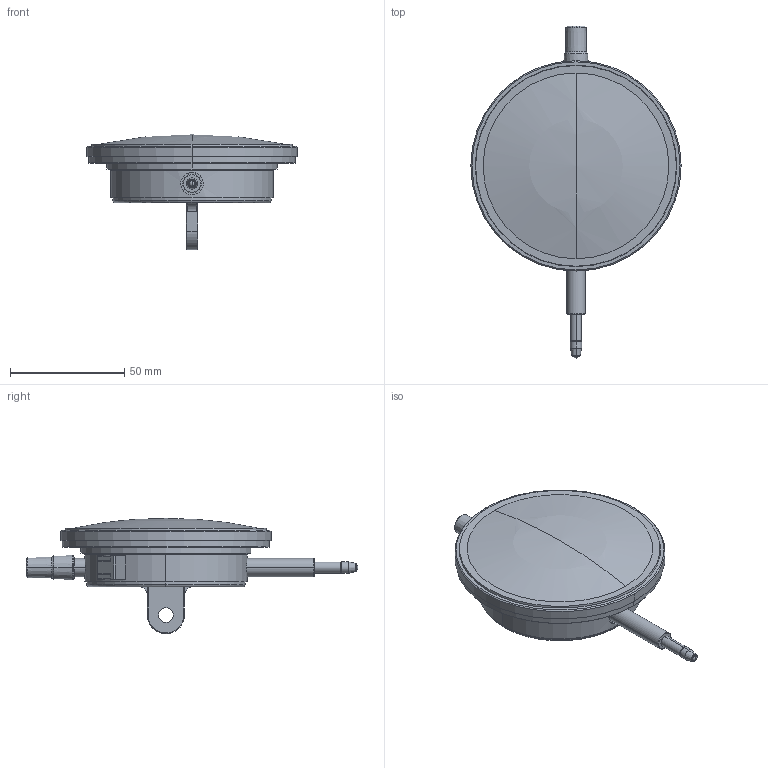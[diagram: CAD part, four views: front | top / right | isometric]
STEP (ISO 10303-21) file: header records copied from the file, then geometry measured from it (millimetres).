
FILE_DESCRIPTION(('Creo Elements/Direct Modeling STEP Export'),'2;1');
FILE_NAME('4046S.stp','2020-03-23T11:12:22',(''),(''),'Creo Elements/Direct Modeling STEP processor for AP214 (Solid Model)','Creo Elements/Direct Modeling 18.1I 13-Aug-2016 (C) Parametric Technology GmbH','');
FILE_SCHEMA(('AUTOMOTIVE_DESIGN { 1 0 10303 214 1 1 1 1 }'));
Length unit declared in the file: millimetre
Products named in the file (2): 4046S
Assembly tree (1 placements, depth 2):
  4046S
    4046S
Bounding box: 92 x 145.2 x 50.4 mm (x, y, z)
Volume: 139859.8 mm3; surface area: 22323 mm2
Topology: 1 solids, 1 shells, 141 faces, 339 edges, 213 vertices
Faces by surface type: plane 54, cylinder 45, cone 30, torus 8, sphere 4
Entity records: 4946 total; most frequent: CARTESIAN_POINT 1776, ORIENTED_EDGE 670, DIRECTION 630, EDGE_CURVE 335, AXIS2_PLACEMENT_3D 232, VERTEX_POINT 213, VECTOR 166, LINE 166
